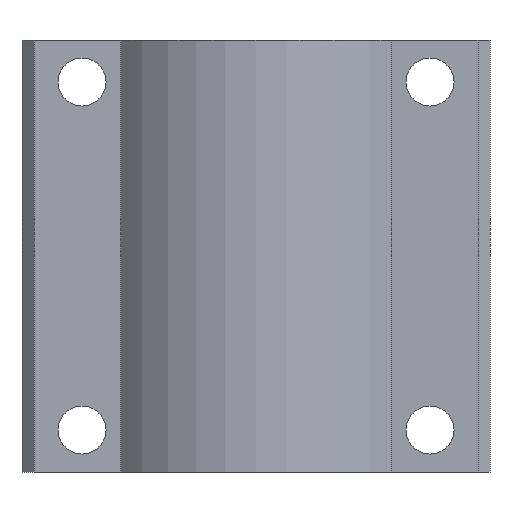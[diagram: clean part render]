
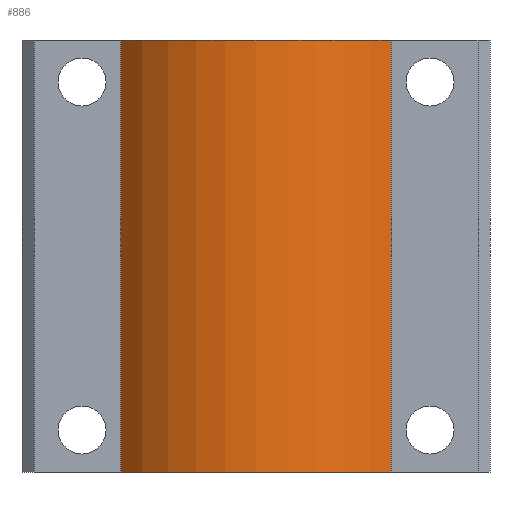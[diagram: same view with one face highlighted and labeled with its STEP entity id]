
A CAD part, front view. The second image highlights one B-rep face of the part: STEP entity #886.
In plain terms, the highlighted cylindrical face has radius 29.5 mm (diameter 59 mm), a partial arc.
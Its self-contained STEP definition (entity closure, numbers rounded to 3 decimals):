
#689=CARTESIAN_POINT('',(21.858,-14.802,-4.));
#690=VERTEX_POINT('',#689);
#697=CARTESIAN_POINT('',(-23.275,-14.802,-4.));
#698=VERTEX_POINT('',#697);
#699=CARTESIAN_POINT('',(-0.709,4.198,-4.));
#700=DIRECTION('',(0.0,0.0,1.));
#701=DIRECTION('',(0.765,0.644,0.0));
#702=AXIS2_PLACEMENT_3D('',#699,#700,#701);
#703=CIRCLE('',#702,29.5);
#704=EDGE_CURVE('',#698,#690,#703,.T.);
#835=CARTESIAN_POINT('',(21.858,-14.802,68.0));
#836=VERTEX_POINT('',#835);
#843=CARTESIAN_POINT('',(21.858,-14.802,68.0));
#844=DIRECTION('',(0.0,0.0,-1.0));
#845=VECTOR('',#844,72.0);
#846=LINE('',#843,#845);
#847=EDGE_CURVE('',#836,#690,#846,.T.);
#862=CARTESIAN_POINT('',(-0.709,4.198,32.0));
#863=DIRECTION('',(0.0,0.0,1.0));
#864=DIRECTION('',(0.765,0.644,0.0));
#865=AXIS2_PLACEMENT_3D('',#862,#863,#864);
#866=CYLINDRICAL_SURFACE('',#865,29.5);
#867=CARTESIAN_POINT('',(-23.275,-14.802,68.0));
#868=VERTEX_POINT('',#867);
#869=CARTESIAN_POINT('',(-0.709,4.198,68.0));
#870=DIRECTION('',(0.0,0.0,-1.));
#871=DIRECTION('',(0.765,0.644,0.0));
#872=AXIS2_PLACEMENT_3D('',#869,#870,#871);
#873=CIRCLE('',#872,29.5);
#874=EDGE_CURVE('',#836,#868,#873,.T.);
#875=ORIENTED_EDGE('',*,*,#874,.T.);
#876=CARTESIAN_POINT('',(-23.275,-14.802,68.0));
#877=DIRECTION('',(0.0,0.0,-1.0));
#878=VECTOR('',#877,72.0);
#879=LINE('',#876,#878);
#880=EDGE_CURVE('',#868,#698,#879,.T.);
#881=ORIENTED_EDGE('',*,*,#880,.T.);
#882=ORIENTED_EDGE('',*,*,#704,.T.);
#883=ORIENTED_EDGE('',*,*,#847,.F.);
#884=EDGE_LOOP('',(#875,#881,#882,#883));
#885=FACE_OUTER_BOUND('',#884,.T.);
#886=ADVANCED_FACE('',(#885),#866,.T.);
